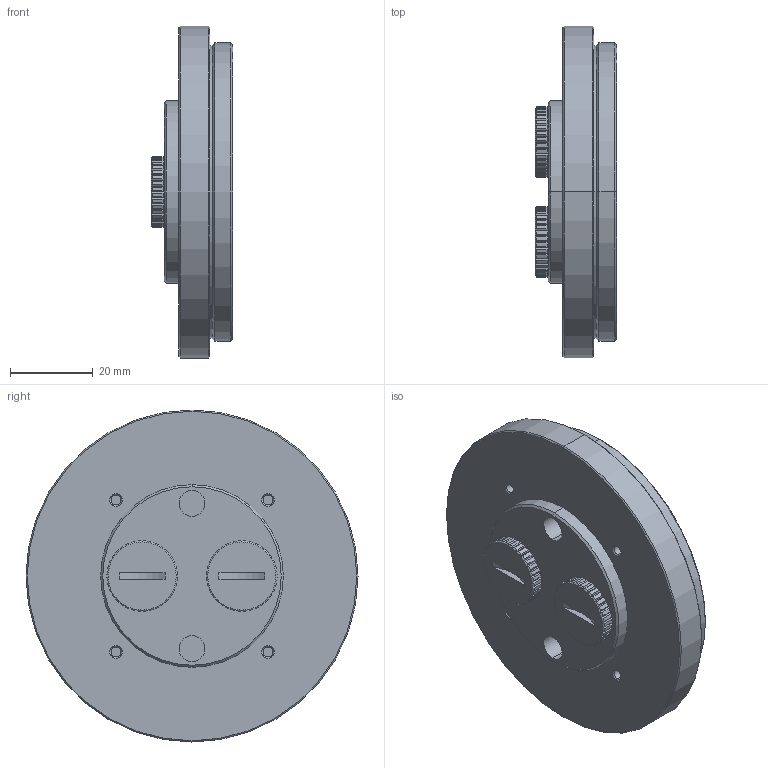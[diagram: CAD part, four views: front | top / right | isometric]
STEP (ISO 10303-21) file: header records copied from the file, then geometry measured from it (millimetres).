
FILE_DESCRIPTION (( 'STEP AP203' ), '1' );
FILE_NAME ('COV-TKTOP2X70 assy.STEP', '2025-10-08T08:21:43', ( 'admin' ), ( '' ), 'SwSTEP 2.0', 'SolidWorks 2012', '' );
FILE_SCHEMA (( 'CONFIG_CONTROL_DESIGN' ));
Length unit declared in the file: millimetre
Products named in the file (3): COV-TKTOP2X70 assy; COV-TKTOP2X70-AT; SCR-CP003PG
Assembly tree (3 placements, depth 2):
  COV-TKTOP2X70 assy
    COV-TKTOP2X70-AT
    SCR-CP003PG  x2
Bounding box: 19.65 x 80 x 80 mm (x, y, z)
Volume: 53302.9 mm3; surface area: 17605.9 mm2
Topology: 3 solids, 3 shells, 478 faces, 1022 edges, 570 vertices
Faces by surface type: cone 196, plane 172, cylinder 110
Entity records: 7659 total; most frequent: CARTESIAN_POINT 1614, DIRECTION 1242, ORIENTED_EDGE 1156, EDGE_CURVE 578, AXIS2_PLACEMENT_3D 530, VERTEX_POINT 326, EDGE_LOOP 292, FACE_OUTER_BOUND 272
